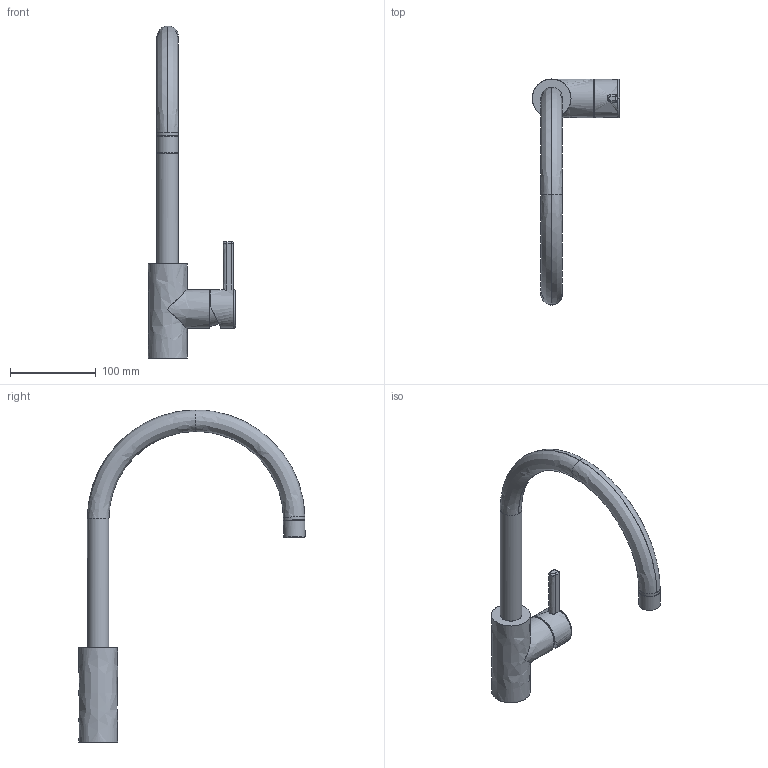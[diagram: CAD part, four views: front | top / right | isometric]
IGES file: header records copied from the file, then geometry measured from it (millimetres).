
Global section: file name: F:\_CONVERSIONE_CAD_2024_2025\03_3D kits new\08_Taps\Eos Neo\3D001_Taps_Eos-Neo_Swivel\3D001_Taps_Eos-Neo_Swivel.igs; native system: Rhinoceros ( Jan  9 2024 ); preprocessor: Trout Lake IGES 012 Jan  9 2024; date: 240130.132412; units: millimetre
Bounding box: 101.62 x 263.36 x 386.5 mm (x, y, z)
Surface area: 72865.8 mm2 (no closed solid volume)
Topology: 0 solids, 0 shells, 198 faces, 1096 edges, 1088 vertices
Faces by surface type: bspline 198
